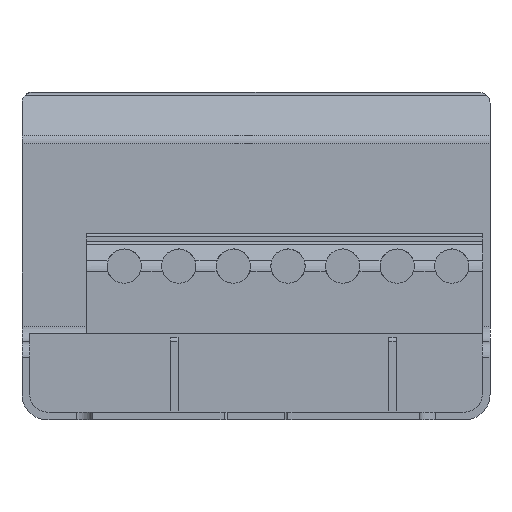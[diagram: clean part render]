
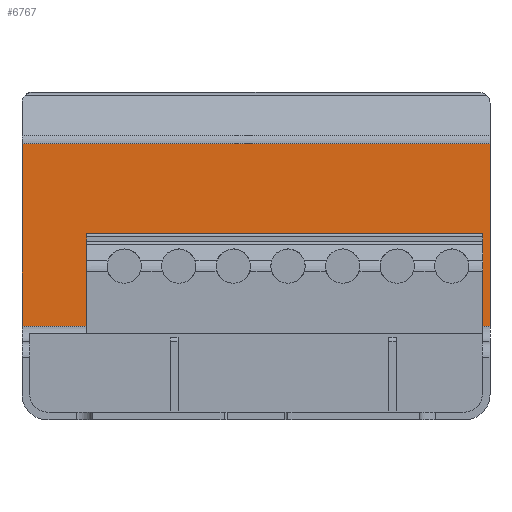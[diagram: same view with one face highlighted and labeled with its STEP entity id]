
A CAD part, front view. The second image highlights one B-rep face of the part: STEP entity #6767.
In plain terms, the highlighted planar face has unit normal (0, -1, 0).
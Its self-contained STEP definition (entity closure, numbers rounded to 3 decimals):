
#1742=DIRECTION('',(1.,0.,0.));
#1743=VECTOR('',#1742,30.);
#1744=CARTESIAN_POINT('',(-15.,-150.7,6.));
#1745=LINE('',#1744,#1743);
#2802=DIRECTION('',(0.,0.,1.));
#2803=VECTOR('',#2802,11.71);
#2804=CARTESIAN_POINT('',(-15.,-150.7,6.));
#2805=LINE('',#2804,#2803);
#2809=DIRECTION('',(1.,0.,0.));
#2810=VECTOR('',#2809,30.);
#2811=CARTESIAN_POINT('',(-15.,-150.7,17.71));
#2812=LINE('',#2811,#2810);
#2816=DIRECTION('',(0.,0.,-1.));
#2817=VECTOR('',#2816,11.71);
#2818=CARTESIAN_POINT('',(15.,-150.7,17.71));
#2819=LINE('',#2818,#2817);
#4768=CARTESIAN_POINT('',(-15.,-150.7,17.71));
#4769=CARTESIAN_POINT('',(15.,-150.7,17.71));
#4770=VERTEX_POINT('',#4768);
#4771=VERTEX_POINT('',#4769);
#4876=CARTESIAN_POINT('',(15.,-150.7,6.));
#4877=VERTEX_POINT('',#4876);
#4878=CARTESIAN_POINT('',(-15.,-150.7,6.));
#4879=VERTEX_POINT('',#4878);
#6755=CARTESIAN_POINT('',(-15.,-150.7,5.525));
#6756=DIRECTION('',(0.,-1.,0.));
#6757=DIRECTION('',(0.,0.,1.));
#6758=AXIS2_PLACEMENT_3D('',#6755,#6756,#6757);
#6759=PLANE('',#6758);
#6760=ORIENTED_EDGE('',*,*,#6035,.F.);
#6761=ORIENTED_EDGE('',*,*,#4945,.T.);
#6763=ORIENTED_EDGE('',*,*,#6762,.T.);
#6764=ORIENTED_EDGE('',*,*,#5125,.T.);
#6765=EDGE_LOOP('',(#6760,#6761,#6763,#6764));
#6766=FACE_OUTER_BOUND('',#6765,.F.);
#4945=EDGE_CURVE('',#4879,#4770,#2805,.T.);
#5125=EDGE_CURVE('',#4771,#4877,#2819,.T.);
#6035=EDGE_CURVE('',#4879,#4877,#1745,.T.);
#6762=EDGE_CURVE('',#4770,#4771,#2812,.T.);
#6767=ADVANCED_FACE('',(#6766),#6759,.T.);
